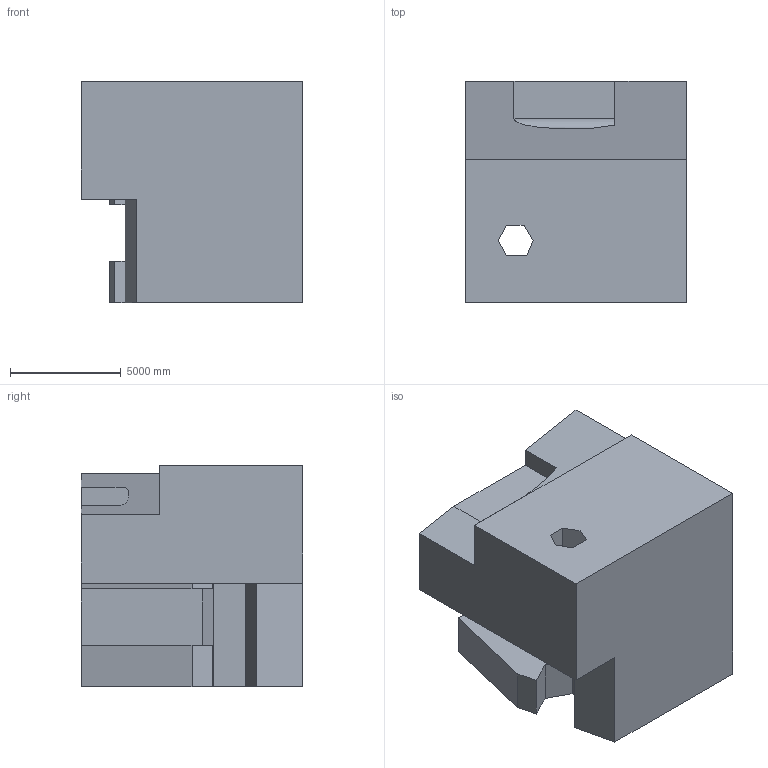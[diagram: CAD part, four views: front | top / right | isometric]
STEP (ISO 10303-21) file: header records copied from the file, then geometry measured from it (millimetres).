
FILE_DESCRIPTION (( 'STEP AP203' ), '1' );
FILE_NAME ('155.STEP', '2022-09-05T15:47:42', ( 'user' ), ( '' ), 'SwSTEP 2.0', 'SolidWorks 2021', '' );
FILE_SCHEMA (( 'CONFIG_CONTROL_DESIGN' ));
Length unit declared in the file: centimetre
Products named in the file (1): 155
Bounding box: 10000 x 10000 x 10000 mm (x, y, z)
Volume: 805087197586.3 mm3; surface area: 629650660.9 mm2
Topology: 1 solids, 1 shells, 37 faces, 104 edges, 68 vertices
Faces by surface type: plane 36, cylinder 1
Entity records: 1248 total; most frequent: CARTESIAN_POINT 213, ORIENTED_EDGE 208, DIRECTION 180, EDGE_CURVE 104, LINE 102, VECTOR 102, VERTEX_POINT 68, AXIS2_PLACEMENT_3D 39
